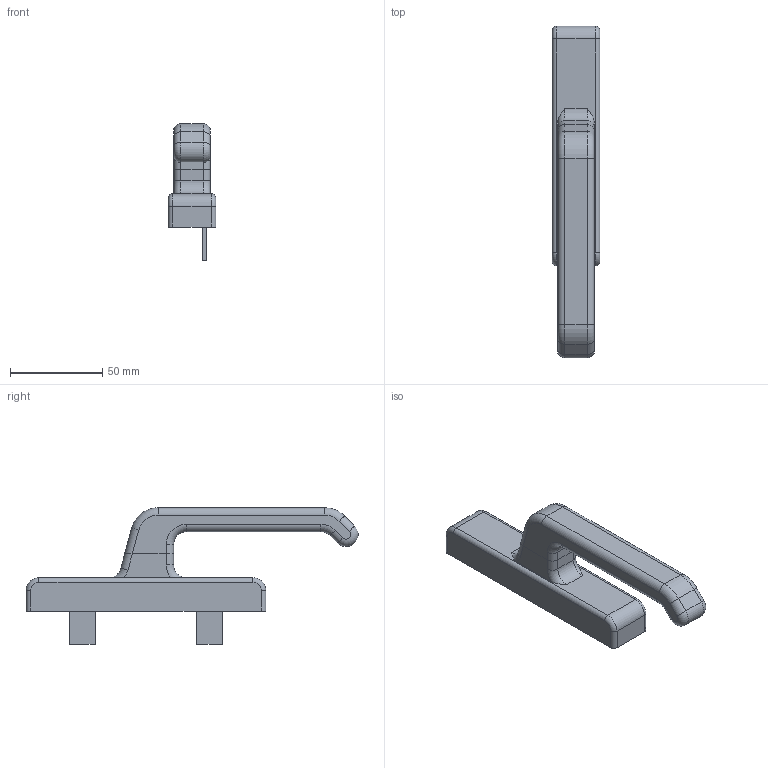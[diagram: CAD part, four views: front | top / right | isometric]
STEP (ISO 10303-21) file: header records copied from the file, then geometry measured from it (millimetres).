
FILE_DESCRIPTION (( 'STEP AP214' ), '1' );
FILE_NAME ('F31141A.step', '2024-12-03T16:17:20', ( '' ), ( '' ), 'SwSTEP 2.0', 'SolidWorks 2023', '' );
FILE_SCHEMA (( 'AUTOMOTIVE_DESIGN' ));
Length unit declared in the file: millimetre
Products named in the file (1): F31141A
Bounding box: 26 x 179.98 x 74 mm (x, y, z)
Volume: 103552.1 mm3; surface area: 23558.6 mm2
Topology: 4 solids, 4 shells, 101 faces, 232 edges, 144 vertices
Faces by surface type: plane 44, cylinder 39, torus 18
Entity records: 2932 total; most frequent: CARTESIAN_POINT 538, DIRECTION 520, ORIENTED_EDGE 464, EDGE_CURVE 232, AXIS2_PLACEMENT_3D 194, VERTEX_POINT 144, LINE 132, VECTOR 132
